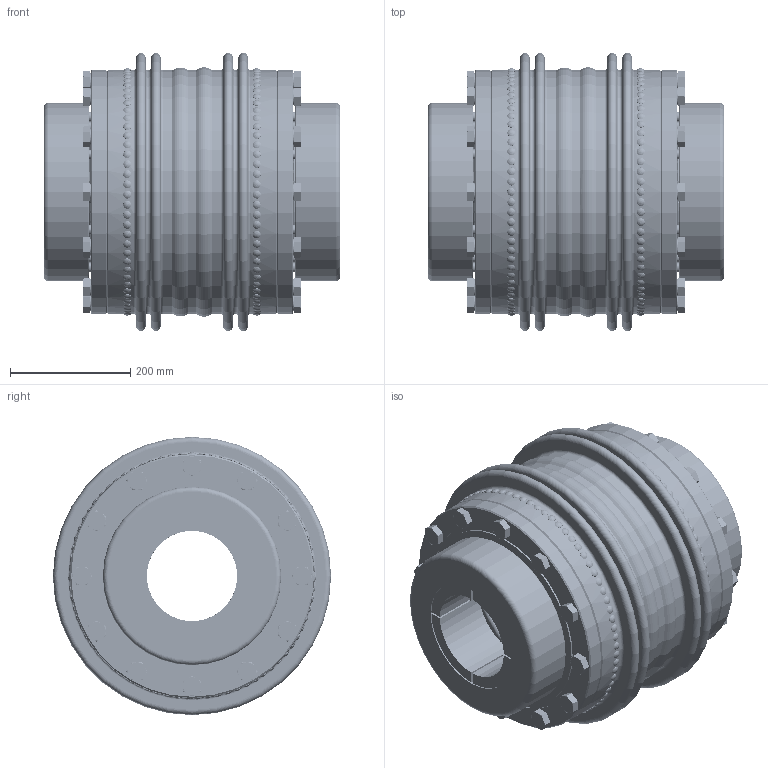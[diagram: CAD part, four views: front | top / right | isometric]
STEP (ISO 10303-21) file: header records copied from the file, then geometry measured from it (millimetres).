
FILE_DESCRIPTION(/* description */ ('Unknown'),/* implementation_level */ '2;1');
FILE_NAME(/* name */ 'KXL 32 A-A',/* time_stamp */ '2021-03-02T14:24:54+01:00',/* author */ ('Unknown'),/* organization */ ('Unknown'),/* preprocessor_version */ 'ST-DEVELOPER v16.7',/* originating_system */ 'DEX',/* authorisation */ $);
FILE_SCHEMA (('AUTOMOTIVE_DESIGN {1 0 10303 214 3 1 1}'));
Products named in the file (1): KXL 32 A-A2
Bounding box: 493 x 462 x 462 mm (x, y, z)
Volume: 16689392.5 mm3; surface area: 2612201.2 mm2
Topology: 1 solids, 51 shells, 2096 faces, 4597 edges, 3027 vertices
Faces by surface type: plane 848, torus 476, cylinder 366, cone 256, sphere 150
Full cylindrical faces by diameter (mm): 6.4 x150, 14 x24, 16 x24, 17 x24, 17.294 x12, 20 x24, 21 x24, 22.5 x24, 28.2 x24, 150 x2, 296 x2, 316 x2, 325 x2, 332 x6, 388 x2, 398.8 x1, 399.8 x1, 400 x2, 400.8 x1, 403.8 x1, 404.8 x1, 405 x4, 405.8 x1
Entity records: 50946 total; most frequent: CARTESIAN_POINT 12885, DIRECTION 7790, ORIENTED_EDGE 6036, FACE_BOUND 3616, EDGE_LOOP 3592, AXIS2_PLACEMENT_3D 3567, EDGE_CURVE 3018, VERTEX_POINT 2418
